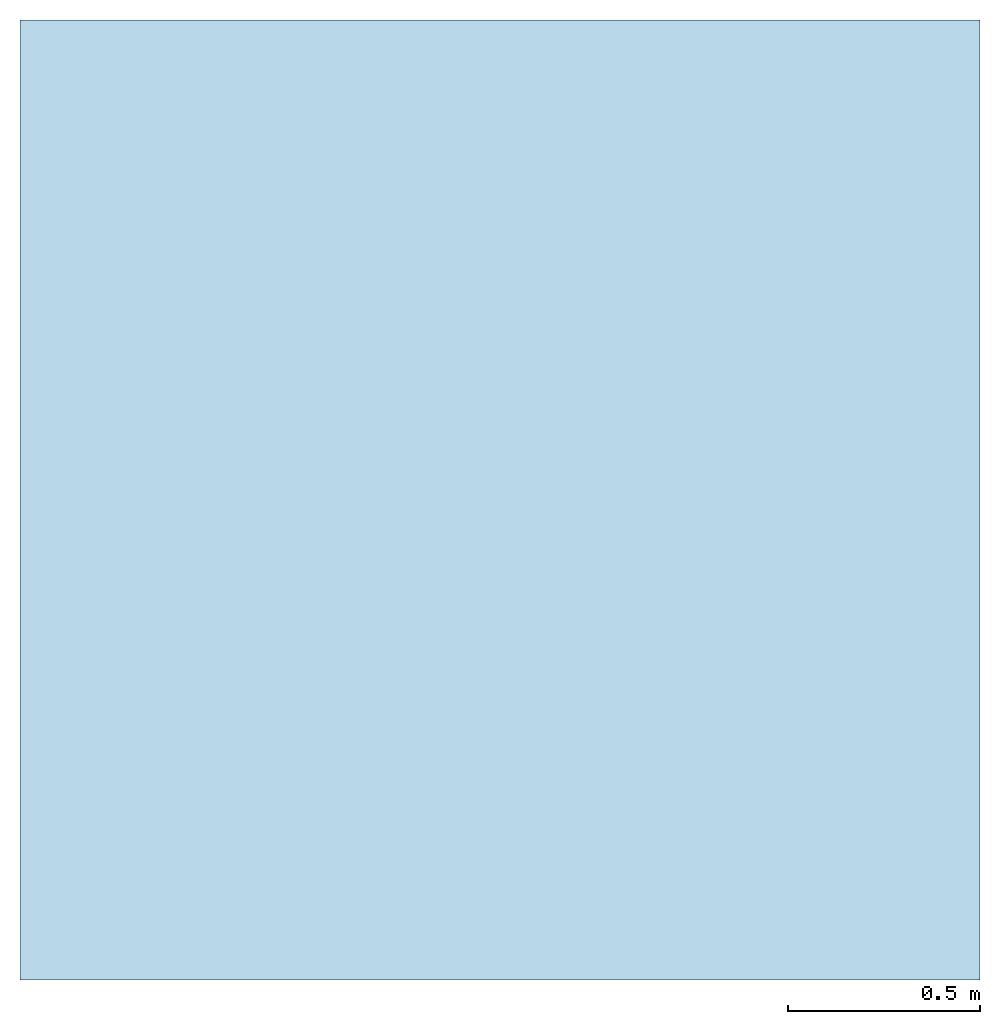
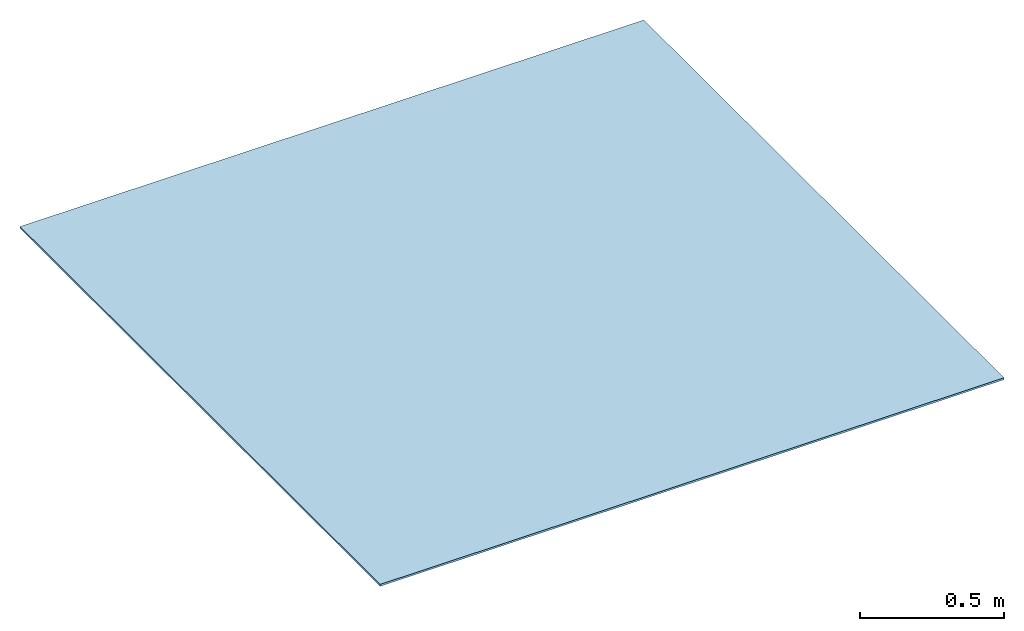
# Not in any storey: 1 slab.
"""IFC2X3 building model written with IfcOpenShell, lengths in millimetres."""

import ifcopenshell
import ifcopenshell.guid

model = None  # the IFC model being written
_history = None  # IfcOwnerHistory: only IFC2X3 demands one
_inside = {}  # id of a spatial element -> (the spatial element, [elements in it])
_under = {}  # id of a project, library or spatial element -> (it, [spatial elements below it])
_declared = {}  # id of a project -> (the project, [libraries it declares])
_typed = {}  # id of a type object -> (the type object, [elements of that type])
_made_of = {}  # id of a material, layer set ... -> (it, [elements and type objects made of it])


def new_model(schema):
    """Start an empty IFC model of exactly this schema.

    Asked for "IFC4X3", IfcOpenShell would pick the latest addendum, in which some entities
    have other attributes; the version numbers below select the first issue.
    IFC2X3 requires an IfcOwnerHistory on every rooted entity: one is made here for all.
    """
    global model, _history
    if schema == "IFC4X3":
        model = ifcopenshell.file(schema_version=(4, 3, 0, 0))
    else:
        model = ifcopenshell.file(schema=schema)
    _inside.clear()
    _under.clear()
    _declared.clear()
    _typed.clear()
    _made_of.clear()
    _history = None
    if model.schema == "IFC2X3":
        org = make("IfcOrganization", Name="unknown")
        user = make(
            "IfcPersonAndOrganization",
            ThePerson=make("IfcPerson", FamilyName="unknown"),
            TheOrganization=org,
        )
        app = make(
            "IfcApplication",
            ApplicationDeveloper=org,
            Version="unknown",
            ApplicationFullName="unknown",
            ApplicationIdentifier="unknown",
        )
        _history = make(
            "IfcOwnerHistory",
            OwningUser=user,
            OwningApplication=app,
            ChangeAction="ADDED",
            CreationDate=0,
        )
    return model


def make(cls, **values):
    """One entity of the class cls with the attributes given. An attribute that is None is left unset."""
    return model.create_entity(
        cls, **{name: value for name, value in values.items() if value is not None}
    )


def rooted(cls, **values):
    """An entity with a GlobalId (a new one), such as an element, a storey or a relation."""
    return make(cls, GlobalId=ifcopenshell.guid.new(), OwnerHistory=_history, **values)


def si_unit(unit_type, name, prefix=None):
    """IfcSIUnit, for example si_unit("LENGTHUNIT", "METRE", prefix="MILLI")."""
    return make("IfcSIUnit", UnitType=unit_type, Prefix=prefix, Name=name)


def assignment(units):
    """IfcUnitAssignment: the units of a project."""
    return None if units is None else make("IfcUnitAssignment", Units=units)


def point(xyz):
    """IfcCartesianPoint."""
    return None if xyz is None else make("IfcCartesianPoint", Coordinates=xyz)


def direction(xyz):
    """IfcDirection."""
    return None if xyz is None else make("IfcDirection", DirectionRatios=xyz)


def frame(location, z_axis=None, x_axis=None):
    """IfcAxis2Placement3D, a coordinate frame: its origin and axes. An axis left out is left unset."""
    return make(
        "IfcAxis2Placement3D",
        Location=point(location),
        Axis=direction(z_axis),
        RefDirection=direction(x_axis),
    )


def frame_2d(location, x_axis=None):
    """IfcAxis2Placement2D, a coordinate frame in the plane: its origin and x axis."""
    return make(
        "IfcAxis2Placement2D", Location=point(location), RefDirection=direction(x_axis)
    )


def origin():
    """The frame at (0, 0, 0) with its axes left unset."""
    return frame((0.0, 0.0, 0.0))


def origin_with_axes():
    """The frame at (0, 0, 0) with the z axis (0, 0, 1) and the x axis (1, 0, 0) written out."""
    return frame((0.0, 0.0, 0.0), z_axis=(0.0, 0.0, 1.0), x_axis=(1.0, 0.0, 0.0))


def origin_2d():
    """The frame at (0, 0) in the plane with its x axis left unset."""
    return frame_2d((0.0, 0.0))


def place(relative_to, where):
    """IfcLocalPlacement: puts the frame where relative to a parent placement (None: the world)."""
    return make(
        "IfcLocalPlacement", PlacementRelTo=relative_to, RelativePlacement=where
    )


def context(
    kind, dimensions, precision=None, world=None, true_north=None, identifier=None
):
    """IfcGeometricRepresentationContext, for example the 3D "Model" context."""
    return make(
        "IfcGeometricRepresentationContext",
        ContextIdentifier=identifier,
        ContextType=kind,
        CoordinateSpaceDimension=dimensions,
        Precision=precision,
        WorldCoordinateSystem=world,
        TrueNorth=true_north,
    )


def project(units=None, contexts=None):
    """IfcProject with its units and contexts."""
    return rooted(
        "IfcProject",
        Name="project",
        RepresentationContexts=contexts,
        UnitsInContext=assignment(units),
    )


def spatial(cls, under=None, at=None, **own):
    """A site, building, storey or space (cls), placed at a placement, below another one or the project."""
    s = rooted(cls, ObjectPlacement=at, **own)
    if under is not None:
        _under.setdefault(under.id(), (under, []))[1].append(s)
    return s


def profile(cls, at=None, kind="AREA", **sizes):
    """A parametric profile (cls). Its sizes go by their IFC names, for example OverallWidth=200.0."""
    return make(cls, ProfileType=kind, Position=at, **sizes)


def rectangle(**sizes):
    """IfcRectangleProfileDef."""
    return profile("IfcRectangleProfileDef", **sizes)


def extrude(swept, where, along, depth):
    """IfcExtrudedAreaSolid: the profile swept, set in the frame where, extruded along a direction by depth."""
    return make(
        "IfcExtrudedAreaSolid",
        SweptArea=swept,
        Position=where,
        ExtrudedDirection=direction(along),
        Depth=depth,
    )


def shape(context_of_items, identifier, shape_type, items):
    """IfcShapeRepresentation: the items that make up one representation, for example the "Body"."""
    return make(
        "IfcShapeRepresentation",
        ContextOfItems=context_of_items,
        RepresentationIdentifier=identifier,
        RepresentationType=shape_type,
        Items=items,
    )


def material(Name=None, Category=None):
    """IfcMaterial."""
    return make("IfcMaterial", Name=Name, Category=Category)


def layer(
    of_material, thickness, ventilated=None, Name=None, Category=None, Priority=None
):
    """IfcMaterialLayer: one layer of a wall or slab, of a material (None: an air gap)."""
    return make(
        "IfcMaterialLayer",
        Material=of_material,
        LayerThickness=thickness,
        IsVentilated=ventilated,
        Name=Name,
        Category=Category,
        Priority=Priority,
    )


def layer_set(layers, Name=None):
    """IfcMaterialLayerSet."""
    return make("IfcMaterialLayerSet", MaterialLayers=layers, LayerSetName=Name)


def layer_usage(for_layer_set, set_direction, sense, offset, extent=None):
    """IfcMaterialLayerSetUsage: how a layer set lies in its element."""
    return make(
        "IfcMaterialLayerSetUsage",
        ForLayerSet=for_layer_set,
        LayerSetDirection=set_direction,
        DirectionSense=sense,
        OffsetFromReferenceLine=offset,
        ReferenceExtent=extent,
    )


def made_of(thing, what):
    """Note that an element or type object is made of a material, layer set ...; save() writes the relation."""
    if what is not None:
        _made_of.setdefault(what.id(), (what, []))[1].append(thing)
    return thing


def type_object(cls, material=None, **own):
    """A type object (cls), such as IfcWallType, which elements share."""
    return made_of(rooted(cls, **own), material)


def element(
    cls,
    number,
    at=None,
    inside=None,
    cuts=None,
    type_object=None,
    material=None,
    context=None,
    identifier="Body",
    shape_type=None,
    held_by="IfcProductDefinitionShape",
    body=None,
    shapes=None,
    **own,
):
    """One element of the class cls, such as IfcWall. Its Tag is "e" and its number.

    at: its placement. inside: the storey or other place that contains it. cuts: it is an
    opening in that element (IfcRelVoidsElement). A single representation is given by context,
    identifier, shape_type and body (its items); several are given by shapes. held_by: the class
    of the entity that holds the representations. save() writes the other relations.
    """
    e = rooted(cls, Tag="e%d" % number, ObjectPlacement=at, **own)
    if body is not None:
        shapes = [shape(context, identifier, shape_type, body)]
    if shapes is not None:
        e.Representation = make(held_by, Representations=shapes)
    if inside is not None:
        _inside.setdefault(inside.id(), (inside, []))[1].append(e)
    if cuts is not None:
        rooted(
            "IfcRelVoidsElement", RelatingBuildingElement=cuts, RelatedOpeningElement=e
        )
    if type_object is not None:
        _typed.setdefault(type_object.id(), (type_object, []))[1].append(e)
    return made_of(e, material)


def aggregate(whole, parts):
    """IfcRelAggregates: a whole, such as a stair, and the parts it consists of."""
    return rooted("IfcRelAggregates", RelatingObject=whole, RelatedObjects=parts)


def save(model, path):
    """Write the relations noted so far, then the file.

    IfcRelAggregates (storeys below a building ...), IfcRelContainedInSpatialStructure (elements
    in a storey), IfcRelDefinesByType, IfcRelAssociatesMaterial and IfcRelDeclares: one each for
    every whole, place, type object, material and project.
    """
    for whole, parts in _under.values():
        aggregate(whole, parts)
    for where, things in _inside.values():
        rooted(
            "IfcRelContainedInSpatialStructure",
            RelatedElements=things,
            RelatingStructure=where,
        )
    for kind, things in _typed.values():
        rooted("IfcRelDefinesByType", RelatedObjects=things, RelatingType=kind)
    for what, things in _made_of.values():
        rooted("IfcRelAssociatesMaterial", RelatedObjects=things, RelatingMaterial=what)
    for by, libraries in _declared.values():
        rooted("IfcRelDeclares", RelatingContext=by, RelatedDefinitions=libraries)
    model.write(path)


model = new_model("IFC2X3")

# Units and contexts
model_context = context("Model", 3, precision=1e-05, world=origin())
plan_context = context("Plan", 2, precision=1e-05, world=origin_2d())
ifc_project = project(units=[si_unit("LENGTHUNIT", "METRE", prefix="MILLI"), si_unit("AREAUNIT", "SQUARE_METRE"), si_unit("VOLUMEUNIT", "CUBIC_METRE"), si_unit("SOLIDANGLEUNIT", "STERADIAN"), si_unit("PLANEANGLEUNIT", "RADIAN"), si_unit("MASSUNIT", "GRAM"), si_unit("TIMEUNIT", "SECOND"), si_unit("THERMODYNAMICTEMPERATUREUNIT", "DEGREE_CELSIUS"), si_unit("LUMINOUSINTENSITYUNIT", "LUMEN")], contexts=[model_context, plan_context])

# Site, building
site_placement = place(None, frame((0.0, 0.0, 0.0), z_axis=(0.0, 1.0, 0.0), x_axis=(0.0, 0.0, 1.0)))
site = spatial("IfcSite", under=ifc_project, at=site_placement, Name="Default site", CompositionType="ELEMENT")
building_placement = place(site_placement, frame((0.0, 0.0, 0.0), z_axis=(0.0, 1.0, 0.0), x_axis=(0.0, 0.0, 1.0)))
building = spatial("IfcBuilding", under=site, at=building_placement, Name="Default building", CompositionType="ELEMENT")

# Slab
ifc_material = material(Name="NBS_DeltaMembranes_VapourPermeableSheets_DeltaTrelaPlus")
ifc_layer = layer(ifc_material, 8.0, ventilated=False)
ifc_layer_set = layer_set([ifc_layer], Name="NBS_DeltaMembranes_VapourPermeableSheets_DeltaTrelaPlus")
ifc_layer_usage = layer_usage(ifc_layer_set, "AXIS3", "NEGATIVE", 0.0)
slab_type = type_object("IfcSlabType", Name="NBS_DeltaMembranes_VapourPermeableSheets_DeltaTrelaPlus", PredefinedType="ROOF", material=ifc_layer_set)
slab_placement = place(None, origin())
element("IfcSlab", 1, at=slab_placement, inside=building, type_object=slab_type, material=ifc_layer_usage, Name="NBS_DeltaMembranes_VapourPermeableSheets_DeltaTrelaPlus", PredefinedType="ROOF", context=model_context, shape_type="SweptSolid", body=[
    extrude(rectangle(XDim=2500.0, YDim=2500.0, at=frame_2d((1250.0, 1250.0))), origin_with_axes(), (0.0, 0.0, 1.0), 8.0),
])

save(model, "model.ifc")
